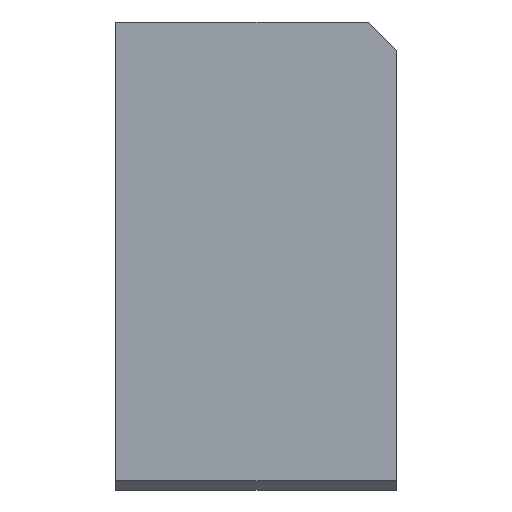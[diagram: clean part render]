
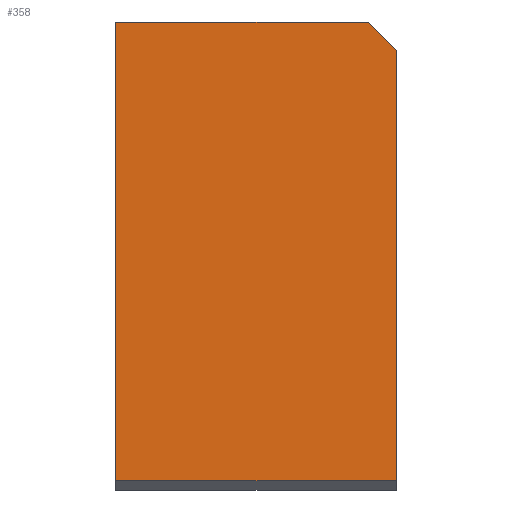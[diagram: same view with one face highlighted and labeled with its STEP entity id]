
A CAD part, left-side view. The second image highlights one B-rep face of the part: STEP entity #358.
In plain terms, the highlighted planar face has unit normal (-1, 0, 0).
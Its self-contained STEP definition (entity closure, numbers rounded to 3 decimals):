
#4 = EDGE_CURVE ( 'NONE', #322, #446, #452, .T. ) ;
#5 = LINE ( 'NONE', #122, #275 ) ;
#6 = VECTOR ( 'NONE', #252, 1000. ) ;
#10 = CARTESIAN_POINT ( 'NONE',  ( -80., 0., 0. ) ) ;
#45 = VERTEX_POINT ( 'NONE', #313 ) ;
#48 = ORIENTED_EDGE ( 'NONE', *, *, #95, .F. ) ;
#53 = VECTOR ( 'NONE', #352, 1000. ) ;
#66 = CARTESIAN_POINT ( 'NONE',  ( -80., 30., 0. ) ) ;
#67 = EDGE_CURVE ( 'NONE', #439, #45, #428, .T. ) ;
#82 = CARTESIAN_POINT ( 'NONE',  ( -80., 0., -49. ) ) ;
#95 = EDGE_CURVE ( 'NONE', #439, #163, #379, .T. ) ;
#96 = DIRECTION ( 'NONE',  ( -1., 0., 0. ) ) ;
#122 = CARTESIAN_POINT ( 'NONE',  ( -80., 0., -49. ) ) ;
#128 = ORIENTED_EDGE ( 'NONE', *, *, #4, .F. ) ;
#151 = CARTESIAN_POINT ( 'NONE',  ( -80., 30., -49. ) ) ;
#154 = FACE_OUTER_BOUND ( 'NONE', #355, .T. ) ;
#163 = VERTEX_POINT ( 'NONE', #82 ) ;
#175 = CARTESIAN_POINT ( 'NONE',  ( -80., 16.5, 13.5 ) ) ;
#185 = CARTESIAN_POINT ( 'NONE',  ( -80., 0., 0. ) ) ;
#204 = LINE ( 'NONE', #185, #373 ) ;
#238 = CARTESIAN_POINT ( 'NONE',  ( -80., 30., 0. ) ) ;
#252 = DIRECTION ( 'NONE',  ( 0., 0., -1. ) ) ;
#274 = EDGE_CURVE ( 'NONE', #446, #45, #204, .T. ) ;
#275 = VECTOR ( 'NONE', #330, 1000. ) ;
#278 = DIRECTION ( 'NONE',  ( 0., 0.707, 0.707 ) ) ;
#308 = AXIS2_PLACEMENT_3D ( 'NONE', #66, #96, #445 ) ;
#313 = CARTESIAN_POINT ( 'NONE',  ( -80., 3., 0. ) ) ;
#322 = VERTEX_POINT ( 'NONE', #151 ) ;
#330 = DIRECTION ( 'NONE',  ( 0., -1., 0. ) ) ;
#331 = EDGE_CURVE ( 'NONE', #322, #163, #5, .T. ) ;
#352 = DIRECTION ( 'NONE',  ( 0., 0., 1. ) ) ;
#355 = EDGE_LOOP ( 'NONE', ( #128, #416, #48, #362, #423 ) ) ;
#358 = ADVANCED_FACE ( 'NONE', ( #154 ), #372, .T. ) ;
#362 = ORIENTED_EDGE ( 'NONE', *, *, #67, .T. ) ;
#372 = PLANE ( 'NONE',  #308 ) ;
#373 = VECTOR ( 'NONE', #405, 1000. ) ;
#379 = LINE ( 'NONE', #10, #6 ) ;
#383 = CARTESIAN_POINT ( 'NONE',  ( -80., 30., 0. ) ) ;
#387 = VECTOR ( 'NONE', #278, 1000. ) ;
#405 = DIRECTION ( 'NONE',  ( 0., -1., 0. ) ) ;
#407 = CARTESIAN_POINT ( 'NONE',  ( -80., 0., -3. ) ) ;
#416 = ORIENTED_EDGE ( 'NONE', *, *, #331, .T. ) ;
#423 = ORIENTED_EDGE ( 'NONE', *, *, #274, .F. ) ;
#428 = LINE ( 'NONE', #175, #387 ) ;
#439 = VERTEX_POINT ( 'NONE', #407 ) ;
#445 = DIRECTION ( 'NONE',  ( 0., 0., 1. ) ) ;
#446 = VERTEX_POINT ( 'NONE', #238 ) ;
#452 = LINE ( 'NONE', #383, #53 ) ;
